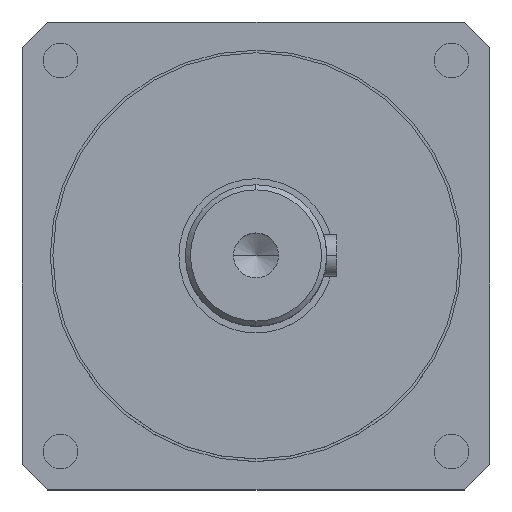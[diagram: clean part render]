
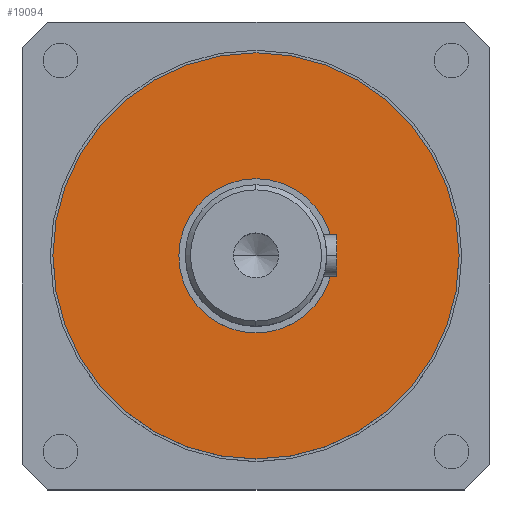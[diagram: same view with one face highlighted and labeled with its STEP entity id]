
A CAD part, top view. The second image highlights one B-rep face of the part: STEP entity #19094.
In plain terms, the highlighted planar face has unit normal (0, 0, 1).
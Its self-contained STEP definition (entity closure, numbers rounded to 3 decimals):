
#1220 = DIRECTION ( 'NONE',  ( 0., 0., 1. ) ) ;
#1529 = AXIS2_PLACEMENT_3D ( 'NONE', #24888, #9885, #27404 ) ;
#3363 = DIRECTION ( 'NONE',  ( 0., 0., -1. ) ) ;
#3878 = DIRECTION ( 'NONE',  ( 0., 0., -1. ) ) ;
#5094 = CARTESIAN_POINT ( 'NONE',  ( 0., 0., 6. ) ) ;
#5256 = VERTEX_POINT ( 'NONE', #23626 ) ;
#7071 = CARTESIAN_POINT ( 'NONE',  ( 79., 0., 6. ) ) ;
#7543 = DIRECTION ( 'NONE',  ( -1., 0., 0. ) ) ;
#9885 = DIRECTION ( 'NONE',  ( 0., 0., -1. ) ) ;
#10204 = EDGE_CURVE ( 'NONE', #21960, #5256, #13288, .T. ) ;
#11154 = CARTESIAN_POINT ( 'NONE',  ( 0., 0., 6. ) ) ;
#11204 = EDGE_LOOP ( 'NONE', ( #15473, #18455 ) ) ;
#11715 = AXIS2_PLACEMENT_3D ( 'NONE', #11154, #1220, #18666 ) ;
#13288 = CIRCLE ( 'NONE', #18075, 30. ) ;
#13958 = CIRCLE ( 'NONE', #1529, 79. ) ;
#14916 = FACE_OUTER_BOUND ( 'NONE', #11204, .T. ) ;
#15091 = VERTEX_POINT ( 'NONE', #7071 ) ;
#15473 = ORIENTED_EDGE ( 'NONE', *, *, #20140, .F. ) ;
#16121 = PLANE ( 'NONE',  #11715 ) ;
#16301 = CIRCLE ( 'NONE', #16305, 79. ) ;
#16305 = AXIS2_PLACEMENT_3D ( 'NONE', #18757, #3878, #21297 ) ;
#16466 = CIRCLE ( 'NONE', #29495, 30. ) ;
#17515 = ORIENTED_EDGE ( 'NONE', *, *, #10204, .T. ) ;
#18075 = AXIS2_PLACEMENT_3D ( 'NONE', #5094, #22492, #7543 ) ;
#18256 = CARTESIAN_POINT ( 'NONE',  ( 0., 0., 6. ) ) ;
#18455 = ORIENTED_EDGE ( 'NONE', *, *, #20861, .F. ) ;
#18666 = DIRECTION ( 'NONE',  ( 1., 0., 0. ) ) ;
#18757 = CARTESIAN_POINT ( 'NONE',  ( 0., 0., 6. ) ) ;
#19094 = ADVANCED_FACE ( 'NONE', ( #20775, #14916 ), #16121, .T. ) ;
#20140 = EDGE_CURVE ( 'NONE', #15091, #25078, #16301, .T. ) ;
#20775 = FACE_BOUND ( 'NONE', #32018, .T. ) ;
#20776 = DIRECTION ( 'NONE',  ( -1., 0., 0. ) ) ;
#20861 = EDGE_CURVE ( 'NONE', #25078, #15091, #13958, .T. ) ;
#21297 = DIRECTION ( 'NONE',  ( 1., 0., 0. ) ) ;
#21950 = CARTESIAN_POINT ( 'NONE',  ( -30., 0., 6. ) ) ;
#21960 = VERTEX_POINT ( 'NONE', #21950 ) ;
#22492 = DIRECTION ( 'NONE',  ( 0., 0., -1. ) ) ;
#22511 = ORIENTED_EDGE ( 'NONE', *, *, #29170, .T. ) ;
#23626 = CARTESIAN_POINT ( 'NONE',  ( 30., 0., 6. ) ) ;
#24888 = CARTESIAN_POINT ( 'NONE',  ( 0., 0., 6. ) ) ;
#25078 = VERTEX_POINT ( 'NONE', #27493 ) ;
#27404 = DIRECTION ( 'NONE',  ( 1., 0., 0. ) ) ;
#27493 = CARTESIAN_POINT ( 'NONE',  ( -79., 0., 6. ) ) ;
#29170 = EDGE_CURVE ( 'NONE', #5256, #21960, #16466, .T. ) ;
#29495 = AXIS2_PLACEMENT_3D ( 'NONE', #18256, #3363, #20776 ) ;
#32018 = EDGE_LOOP ( 'NONE', ( #17515, #22511 ) ) ;
